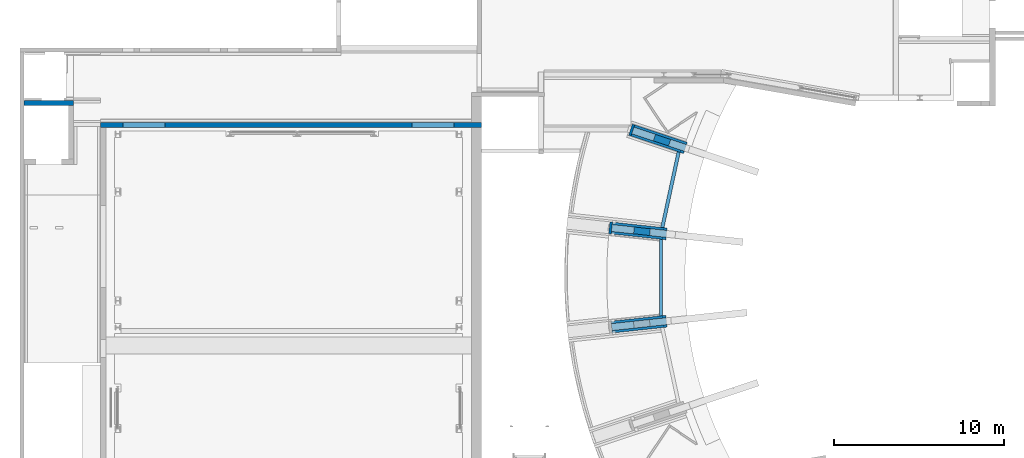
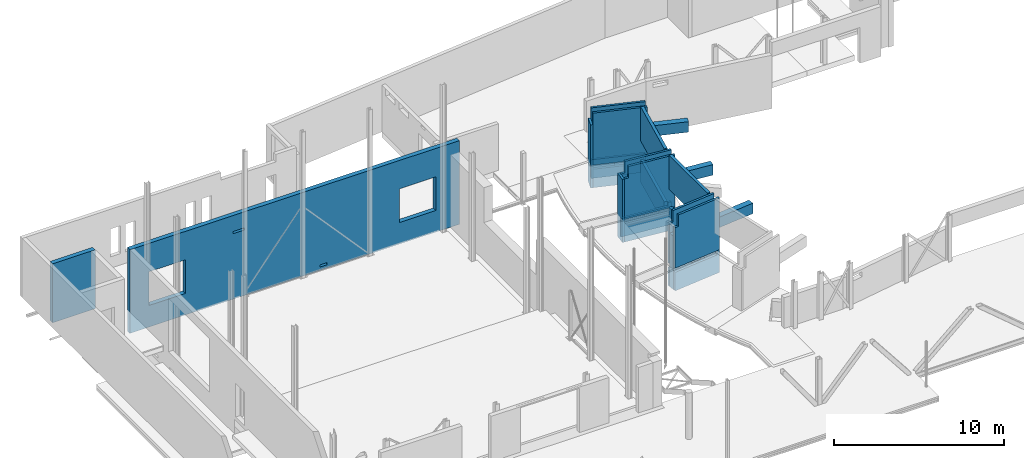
# One storey, part 27 of 37: 25 walls, 10 openings.
"""IFC2X3 building model written with IfcOpenShell, lengths in millimetres."""

from ifc_helpers import new_model, entity, si_unit, converted_unit, derived_unit, direction, frame, frame_2d, origin, origin_2d_with_axis, place, context, subcontext, project, spatial, polyline, rectangle, outline, extrude, clip, bounded_halfspace, material, layer, layer_set, layer_usage, type_object, element, save


model = new_model("IFC2X3")

# Units and contexts
model_context = context("Model", 3, precision=0.01, world=origin(), true_north=direction((6.12303176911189e-17, 1.0)))
body_context = subcontext(model_context, "Body", "Model", "MODEL_VIEW")
ifc_project = project(units=[si_unit("LENGTHUNIT", "METRE", prefix="MILLI"), si_unit("AREAUNIT", "SQUARE_METRE", prefix="MILLI"), si_unit("VOLUMEUNIT", "CUBIC_METRE"), converted_unit("PLANEANGLEUNIT", "DEGREE", entity("IfcRatioMeasure", 0.0174532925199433), si_unit("PLANEANGLEUNIT", "RADIAN"), dimensions=[0, 0, 0, 0, 0, 0, 0]), si_unit("MASSUNIT", "GRAM", prefix="KILO"), derived_unit("MASSDENSITYUNIT", [(si_unit("MASSUNIT", "GRAM", prefix="KILO"), 1), (si_unit("LENGTHUNIT", "METRE"), -3)]), derived_unit("MOMENTOFINERTIAUNIT", [(si_unit("LENGTHUNIT", "METRE"), 4)]), si_unit("TIMEUNIT", "SECOND"), si_unit("FREQUENCYUNIT", "HERTZ"), si_unit("THERMODYNAMICTEMPERATUREUNIT", "DEGREE_CELSIUS"), derived_unit("THERMALTRANSMITTANCEUNIT", [(si_unit("MASSUNIT", "GRAM", prefix="KILO"), 1), (si_unit("THERMODYNAMICTEMPERATUREUNIT", "KELVIN"), -1), (si_unit("TIMEUNIT", "SECOND"), -3)]), derived_unit("VOLUMETRICFLOWRATEUNIT", [(si_unit("LENGTHUNIT", "METRE"), 3), (si_unit("TIMEUNIT", "SECOND"), -1)]), si_unit("ELECTRICCURRENTUNIT", "AMPERE"), si_unit("ELECTRICVOLTAGEUNIT", "VOLT"), si_unit("POWERUNIT", "WATT"), si_unit("FORCEUNIT", "NEWTON", prefix="KILO"), si_unit("ILLUMINANCEUNIT", "LUX"), si_unit("LUMINOUSFLUXUNIT", "LUMEN"), si_unit("LUMINOUSINTENSITYUNIT", "CANDELA"), derived_unit("USERDEFINED", [(si_unit("MASSUNIT", "GRAM", prefix="KILO"), -1), (si_unit("LENGTHUNIT", "METRE"), -2), (si_unit("TIMEUNIT", "SECOND"), 3), (si_unit("LUMINOUSFLUXUNIT", "LUMEN"), 1)]), derived_unit("LINEARVELOCITYUNIT", [(si_unit("LENGTHUNIT", "METRE"), 1), (si_unit("TIMEUNIT", "SECOND"), -1)]), si_unit("PRESSUREUNIT", "PASCAL"), derived_unit("USERDEFINED", [(si_unit("LENGTHUNIT", "METRE"), -2), (si_unit("MASSUNIT", "GRAM", prefix="KILO"), 1), (si_unit("TIMEUNIT", "SECOND"), -2)]), derived_unit("LINEARFORCEUNIT", [(si_unit("MASSUNIT", "GRAM", prefix="KILO"), 1), (si_unit("LENGTHUNIT", "METRE"), 1), (si_unit("TIMEUNIT", "SECOND"), -2), (si_unit("LENGTHUNIT", "METRE"), -1)]), derived_unit("PLANARFORCEUNIT", [(si_unit("MASSUNIT", "GRAM", prefix="KILO"), 1), (si_unit("LENGTHUNIT", "METRE"), 1), (si_unit("TIMEUNIT", "SECOND"), -2), (si_unit("LENGTHUNIT", "METRE"), -2)])], contexts=[model_context])

# Site, building, storey
site_placement = place(None, origin())
site = spatial("IfcSite", under=ifc_project, at=site_placement, Name="Theater aan de Parade", CompositionType="ELEMENT")
building_placement = place(site_placement, origin())
building = spatial("IfcBuilding", under=site, at=building_placement, Name="Theater aan de Parade", CompositionType="ELEMENT")
storey_placement = place(building_placement, frame((0.0, 0.0, 5020.0)))
storey = spatial("IfcBuildingStorey", under=building, at=storey_placement, Name="01 eerste verdieping", CompositionType="ELEMENT", Elevation=5020.0)

# Wall, openings
ifc_material_1 = material(Name="00_PBT_MAT_beton t.p.g.")
ifc_layer_1 = layer(ifc_material_1, 400.0)
ifc_layer_set_1 = layer_set([ifc_layer_1], Name="Basic Wall:28_PBT_WA_beton t.p.g._d=400_bestaand")
ifc_layer_usage_1 = layer_usage(ifc_layer_set_1, "AXIS2", "POSITIVE", -200.0)
wall_type_1 = type_object("IfcWallType", Name="Basic Wall:28_PBT_WA_beton t.p.g._d=400_bestaand", PredefinedType="STANDARD", material=ifc_layer_set_1)
wall_1_placement = place(storey_placement, frame((50853.7394722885, 34754.9751017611, -1710.0), z_axis=(0.0, 0.0, 1.0), x_axis=(-0.994276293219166, 0.106839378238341, 0.0)))
wall_1 = element("IfcWallStandardCase", 1, at=wall_1_placement, inside=storey, type_object=wall_type_1, material=ifc_layer_usage_1, Name="Basic Wall:28_PBT_WA_beton t.p.g._d=400_bestaand", ObjectType="Basic Wall:28_PBT_WA_beton t.p.g._d=400_bestaand", context=body_context, shape_type="SweptSolid", body=[
    extrude(rectangle(XDim=5764.2585182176, YDim=399.999999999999, at=frame_2d((2882.12925910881, 5.11590769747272e-13), x_axis=(-1.0, 0.0))), origin(), (0.0, 0.0, 1.0), 3840.0),
])
opening_1_placement = place(wall_1_placement, origin())
element("IfcOpeningElement", 2, at=opening_1_placement, cuts=wall_1, Name="Basic Wall:28_PBT_WA_beton t.p.g._d=400_bestaand", ObjectType="Opening", context=body_context, shape_type="SweptSolid", body=[
    extrude(rectangle(XDim=2049.99999999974, YDim=949.999999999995, at=frame_2d((-2.27373675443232e-13, 7.95807864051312e-13), x_axis=(0.0, 1.0))), frame((3980.49800069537, 200.0, 2065.0), z_axis=(0.0, -1.0, 0.0), x_axis=(1.0, 0.0, 0.0)), (0.0, 0.0, 1.0), 400.0),
])
opening_2_placement = place(wall_1_placement, origin())
element("IfcOpeningElement", 3, at=opening_2_placement, cuts=wall_1, Name="Basic Wall:28_PBT_WA_beton t.p.g._d=400_bestaand", ObjectType="Opening", context=body_context, shape_type="SweptSolid", body=[
    extrude(rectangle(XDim=3089.99999999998, YDim=2524.65982693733, at=frame_2d((-2.27373675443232e-13, -1.13686837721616e-13), x_axis=(1.0, 0.0))), frame((1262.32991346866, 200.0, 1545.0), z_axis=(0.0, -1.0, 0.0), x_axis=(0.0, 0.0, -1.0)), (0.0, 0.0, 1.0), 400.0),
])

ifc_layer_usage_2 = layer_usage(ifc_layer_set_1, "AXIS2", "NEGATIVE", 200.0)
wall_2_placement = place(storey_placement, frame((51842.1950222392, 39280.3835829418, -1420.0), z_axis=(0.0, 0.0, 1.0), x_axis=(-0.948323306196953, 0.317305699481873, 0.0)))
wall_2 = element("IfcWallStandardCase", 4, at=wall_2_placement, inside=storey, type_object=wall_type_1, material=ifc_layer_usage_2, Name="Basic Wall:28_PBT_WA_beton t.p.g._d=400_bestaand", ObjectType="Basic Wall:28_PBT_WA_beton t.p.g._d=400_bestaand", context=body_context, shape_type="SweptSolid", body=[
    extrude(rectangle(XDim=5773.50284779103, YDim=400.000000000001, at=frame_2d((2886.75142389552, 4.54747350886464e-13), x_axis=(-1.0, 0.0))), origin(), (0.0, 0.0, 1.0), 3550.0),
])
opening_3_placement = place(wall_2_placement, origin())
element("IfcOpeningElement", 5, at=opening_3_placement, cuts=wall_2, Name="Basic Wall:28_PBT_WA_beton t.p.g._d=400_bestaand", ObjectType="Opening", context=body_context, shape_type="SweptSolid", body=[
    extrude(rectangle(XDim=2049.99999999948, YDim=949.999999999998, at=frame_2d((-5.48538992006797e-12, 0.0), x_axis=(0.0, 1.0))), frame((3970.2407419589, 200.0, 1775.0), z_axis=(0.0, -1.0, 0.0), x_axis=(1.0, 0.0, 0.0)), (0.0, 0.0, 1.0), 400.0),
])
opening_4_placement = place(wall_2_placement, origin())
element("IfcOpeningElement", 6, at=opening_4_placement, cuts=wall_2, Name="Basic Wall:28_PBT_WA_beton t.p.g._d=400_bestaand", ObjectType="Opening", context=body_context, shape_type="SweptSolid", body=[
    extrude(rectangle(XDim=2799.9999999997, YDim=2517.0764847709, at=frame_2d((5.6843418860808e-13, 5.57065504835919e-12), x_axis=(1.0, 0.0))), frame((1258.53824238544, 200.0, 1400.0), z_axis=(0.0, -1.0, 0.0), x_axis=(0.0, 0.0, -1.0)), (0.0, 0.0, 1.0), 400.0),
])

ifc_layer_usage_3 = layer_usage(ifc_layer_set_1, "AXIS2", "NEGATIVE", 200.0)
wall_3_placement = place(storey_placement, frame((50852.3419543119, 30158.0407946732, -1710.0), z_axis=(0.0, 0.0, 1.0), x_axis=(-0.994276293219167, -0.106839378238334, 0.0)))
wall_3 = element("IfcWallStandardCase", 7, at=wall_3_placement, inside=storey, type_object=wall_type_1, material=ifc_layer_usage_3, Name="Basic Wall:28_PBT_WA_beton t.p.g._d=400_bestaand", ObjectType="Basic Wall:28_PBT_WA_beton t.p.g._d=400_bestaand", context=body_context, shape_type="SweptSolid", body=[
    extrude(rectangle(XDim=5773.50318820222, YDim=399.999999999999, at=frame_2d((2886.75159410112, -6.25277607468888e-13), x_axis=(-1.0, 0.0))), origin(), (0.0, 0.0, 1.0), 3840.0),
])
opening_5_placement = place(wall_3_placement, origin())
element("IfcOpeningElement", 8, at=opening_5_placement, cuts=wall_3, Name="Basic Wall:28_PBT_WA_beton t.p.g._d=400_bestaand", ObjectType="Opening", context=body_context, shape_type="SweptSolid", body=[
    extrude(rectangle(XDim=2049.99999999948, YDim=950.000000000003, at=frame_2d((-3.41060513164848e-13, -4.57589521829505e-12), x_axis=(1.0, 0.0))), frame((3989.04624224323, 200.0, 2065.0), z_axis=(0.0, -1.0, 0.0), x_axis=(0.0, 0.0, -1.0)), (0.0, 0.0, 1.0), 400.0),
])
opening_6_placement = place(wall_3_placement, origin())
element("IfcOpeningElement", 9, at=opening_6_placement, cuts=wall_3, Name="Basic Wall:28_PBT_WA_beton t.p.g._d=400_bestaand", ObjectType="Opening", context=body_context, shape_type="SweptSolid", body=[
    extrude(rectangle(XDim=3089.99999999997, YDim=2530.97625901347, at=origin_2d_with_axis()), frame((1265.48812950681, 200.0, 1545.0), z_axis=(0.0, -1.0, 0.0), x_axis=(0.0, 0.0, -1.0)), (0.0, 0.0, 1.0), 400.0),
])

# Wall
ifc_material_2 = material(Name="00_PBT_MAT_beton t.p.g._C30/37")
ifc_layer_2 = layer(ifc_material_2, 300.0)
ifc_layer_set_2 = layer_set([ifc_layer_2], Name="Basic Wall:28_PBT_WA_beton t.p.g._d=300_C30/37")
ifc_layer_usage_4 = layer_usage(ifc_layer_set_2, "AXIS2", "POSITIVE", -150.0)
wall_type_2 = type_object("IfcWallType", Name="Basic Wall:28_PBT_WA_beton t.p.g._d=300_C30/37", PredefinedType="STANDARD", material=ifc_layer_set_2)
wall_4_placement = place(storey_placement, frame((13454.8570025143, 42720.0, 0.0), z_axis=(0.0, 0.0, 1.0), x_axis=(-1.0, 0.0, 0.0)))
element("IfcWallStandardCase", 10, at=wall_4_placement, inside=storey, type_object=wall_type_2, material=ifc_layer_usage_4, Name="Basic Wall:28_PBT_WA_beton t.p.g._d=300_C30/37", ObjectType="Basic Wall:28_PBT_WA_beton t.p.g._d=300_C30/37", context=body_context, shape_type="SweptSolid", body=[
    extrude(rectangle(XDim=2900.74444879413, YDim=300.000000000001, at=frame_2d((1450.37222439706, 7.38964445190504e-13), x_axis=(-1.0, 0.0))), origin(), (0.0, 0.0, 1.0), 4235.0),
])

# Wall, openings
ifc_layer_usage_5 = layer_usage(ifc_layer_set_2, "AXIS2", "POSITIVE", -150.0)
wall_5_placement = place(storey_placement, frame((15053.8570025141, 41423.308327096, -1550.0)))
wall_5 = element("IfcWallStandardCase", 11, at=wall_5_placement, inside=storey, type_object=wall_type_2, material=ifc_layer_usage_5, Name="Basic Wall:28_PBT_WA_beton t.p.g._d=300_C30/37", ObjectType="Basic Wall:28_PBT_WA_beton t.p.g._d=300_C30/37", context=body_context, shape_type="SweptSolid", body=[
    extrude(rectangle(XDim=22400.0011275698, YDim=300.000000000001, at=frame_2d((11200.0005637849, -2.54374299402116e-12), x_axis=(-1.0, 0.0))), origin(), (0.0, 0.0, 1.0), 6009.99999999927),
])
opening_7_placement = place(wall_5_placement, origin())
element("IfcOpeningElement", 12, at=opening_7_placement, cuts=wall_5, Name="Basic Wall:28_PBT_WA_beton t.p.g._d=300_C30/37", ObjectType="Opening", context=body_context, shape_type="SweptSolid", body=[
    extrude(rectangle(XDim=2419.99999999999, YDim=2470.0, at=frame_2d((1.13686837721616e-12, 5.6843418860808e-13), x_axis=(0.0, 1.0))), frame((2537.99983258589, -150.0, 2760.0), z_axis=(0.0, 1.0, 0.0), x_axis=(1.0, 0.0, 0.0)), (0.0, 0.0, 1.0), 300.000000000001),
])
opening_8_placement = place(wall_5_placement, origin())
element("IfcOpeningElement", 13, at=opening_8_placement, cuts=wall_5, Name="Basic Wall:28_PBT_WA_beton t.p.g._d=300_C30/37", ObjectType="Opening", context=body_context, shape_type="SweptSolid", body=[
    extrude(rectangle(XDim=2419.99999999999, YDim=2470.00000000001, at=frame_2d((2.27373675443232e-12, 5.6843418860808e-13), x_axis=(0.0, 1.0))), frame((19562.0011275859, -150.0, 2760.0), z_axis=(0.0, 1.0, 0.0), x_axis=(1.0, 0.0, 0.0)), (0.0, 0.0, 1.0), 300.000000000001),
])
opening_9_placement = place(wall_5_placement, origin())
element("IfcOpeningElement", 14, at=opening_9_placement, cuts=wall_5, Name="Basic Wall:28_PBT_WA_beton t.p.g._d=300_C30/37", ObjectType="Opening", context=body_context, shape_type="SweptSolid", body=[
    extrude(rectangle(XDim=149.999999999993, YDim=500.000000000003, at=frame_2d((-2.1600499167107e-12, 5.40012479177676e-13), x_axis=(0.0, 1.0))), frame((13167.5535566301, -150.0, 320.0), z_axis=(0.0, 1.0, 0.0), x_axis=(1.0, 0.0, 0.0)), (0.0, 0.0, 1.0), 300.000000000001),
])
opening_10_placement = place(wall_5_placement, origin())
element("IfcOpeningElement", 15, at=opening_10_placement, cuts=wall_5, Name="Basic Wall:28_PBT_WA_beton t.p.g._d=300_C30/37", ObjectType="Opening", context=body_context, shape_type="SweptSolid", body=[
    extrude(rectangle(XDim=149.999999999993, YDim=800.000000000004, at=frame_2d((2.18847162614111e-12, -5.40012479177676e-13), x_axis=(0.0, 1.0))), frame((7399.7215757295, -150.0, 4785.02895142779), z_axis=(0.0, 1.0, 0.0), x_axis=(1.0, 0.0, 0.0)), (0.0, 0.0, 1.0), 300.000000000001),
])

# Walls
ifc_layer_3 = layer(ifc_material_2, 200.0)
ifc_layer_set_3 = layer_set([ifc_layer_3], Name="Basic Wall:28_PBT_WA_beton t.p.g._d=200_C30/37")
ifc_layer_usage_6 = layer_usage(ifc_layer_set_3, "AXIS2", "POSITIVE", -100.0)
wall_type_3 = type_object("IfcWallType", Name="Basic Wall:28_PBT_WA_beton t.p.g._d=200_C30/37", PredefinedType="STANDARD", material=ifc_layer_set_3)
wall_6_placement = place(storey_placement, frame((49059.0235996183, 39854.0756580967, -1700.0), z_axis=(0.0, 0.0, 1.0), x_axis=(-0.211758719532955, -0.977321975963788, 0.0)))
element("IfcWallStandardCase", 16, at=wall_6_placement, inside=storey, type_object=wall_type_3, material=ifc_layer_usage_6, Name="Basic Wall:28_PBT_WA_beton t.p.g._d=200_C30/37", ObjectType="Basic Wall:28_PBT_WA_beton t.p.g._d=200_C30/37", context=body_context, shape_type="SweptSolid", body=[
    extrude(outline(polyline([(4564.56103067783, -100.0), (4543.21442973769, 100.0), (21.9905562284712, 100.0), (0.0, -100.0), (4564.56103067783, -100.0)])), origin(), (0.0, 0.0, 1.0), 1619.99999999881),
])
ifc_layer_usage_7 = layer_usage(ifc_layer_set_3, "AXIS2", "POSITIVE", -100.0)
wall_7_placement = place(storey_placement, frame((48018.8265992, 34718.3296203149, -1710.0), z_axis=(0.0, 0.0, 1.0), x_axis=(0.0, -1.0, 0.0)))
element("IfcWallStandardCase", 17, at=wall_7_placement, inside=storey, type_object=wall_type_3, material=ifc_layer_usage_7, Name="Basic Wall:28_PBT_WA_beton t.p.g._d=200_C30/37", ObjectType="Basic Wall:28_PBT_WA_beton t.p.g._d=200_C30/37", context=body_context, shape_type="SweptSolid", body=[
    extrude(outline(polyline([(4523.49317471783, -100.0), (4502.00229155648, 100.0), (21.4908831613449, 100.0), (0.0, -100.0), (4523.49317471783, -100.0)])), origin(), (0.0, 0.0, 1.0), 1710.00000000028),
])
ifc_layer_usage_8 = layer_usage(ifc_layer_set_3, "AXIS2", "POSITIVE", -100.0)
wall_8_placement = place(storey_placement, frame((48018.8265992, 34718.3296203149, 1270.0), z_axis=(0.0, 0.0, 1.0), x_axis=(0.0, -1.0, 0.0)))
element("IfcWallStandardCase", 18, at=wall_8_placement, inside=storey, type_object=wall_type_3, material=ifc_layer_usage_8, Name="Basic Wall:28_PBT_WA_beton t.p.g._d=200_C30/37", ObjectType="Basic Wall:28_PBT_WA_beton t.p.g._d=200_C30/37", context=body_context, shape_type="SweptSolid", body=[
    extrude(outline(polyline([(4523.49317471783, -100.0), (4502.00229155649, 100.0), (21.4908831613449, 100.0), (0.0, -100.0), (4523.49317471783, -100.0)])), origin(), (0.0, 0.0, 1.0), 2459.99999999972),
])
ifc_layer_usage_9 = layer_usage(ifc_layer_set_3, "AXIS2", "POSITIVE", -100.0)
wall_9_placement = place(storey_placement, frame((49059.0235996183, 39854.0756580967, 1270.0), z_axis=(0.0, 0.0, 1.0), x_axis=(-0.211758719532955, -0.977321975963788, 0.0)))
element("IfcWallStandardCase", 19, at=wall_9_placement, inside=storey, type_object=wall_type_3, material=ifc_layer_usage_9, Name="Basic Wall:28_PBT_WA_beton t.p.g._d=200_C30/37", ObjectType="Basic Wall:28_PBT_WA_beton t.p.g._d=200_C30/37", context=body_context, shape_type="SweptSolid", body=[
    extrude(outline(polyline([(4564.56103067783, -100.0), (4543.21442973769, 100.0), (21.9905562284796, 100.0), (0.0, -100.0), (4564.56103067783, -100.0)])), origin(), (0.0, 0.0, 1.0), 2459.99999999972),
])
ifc_layer_4 = layer(ifc_material_2, 400.0)
ifc_layer_set_4 = layer_set([ifc_layer_4], Name="Basic Wall:28_PBT_WA_beton t.p.g._d=400_C30/37")
ifc_layer_usage_10 = layer_usage(ifc_layer_set_4, "AXIS2", "NEGATIVE", 200.0)
wall_type_4 = type_object("IfcWallType", Name="Basic Wall:28_PBT_WA_beton t.p.g._d=400_C30/37", PredefinedType="STANDARD", material=ifc_layer_set_4)
wall_10_placement = place(storey_placement, frame((48527.5767658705, 40389.4433914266, -670.0), z_axis=(0.0, 0.0, 1.0), x_axis=(-0.948323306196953, 0.317305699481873, 0.0)))
element("IfcWallStandardCase", 20, at=wall_10_placement, inside=storey, type_object=wall_type_4, material=ifc_layer_usage_10, Name="Basic Wall:28_PBT_WA_beton t.p.g._d=400_C30/37", ObjectType="Basic Wall:28_PBT_WA_beton t.p.g._d=400_C30/37", context=body_context, shape_type="SweptSolid", body=[
    extrude(rectangle(XDim=949.999999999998, YDim=400.000000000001, at=frame_2d((474.999999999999, -1.98951966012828e-13), x_axis=(-1.0, 0.0))), origin(), (0.0, 0.0, 1.0), 2049.99999999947),
])
ifc_layer_usage_11 = layer_usage(ifc_layer_set_4, "AXIS2", "POSITIVE", -200.0)
wall_11_placement = place(storey_placement, frame((47368.3059142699, 35129.5003285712, -670.0), z_axis=(0.0, 0.0, 1.0), x_axis=(-0.994276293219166, 0.106839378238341, 0.0)))
element("IfcWallStandardCase", 21, at=wall_11_placement, inside=storey, type_object=wall_type_4, material=ifc_layer_usage_11, Name="Basic Wall:28_PBT_WA_beton t.p.g._d=400_C30/37", ObjectType="Basic Wall:28_PBT_WA_beton t.p.g._d=400_C30/37", context=body_context, shape_type="SweptSolid", body=[
    extrude(rectangle(XDim=949.999999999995, YDim=399.999999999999, at=frame_2d((474.999999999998, -2.1316282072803e-13), x_axis=(-1.0, 0.0))), origin(), (0.0, 0.0, 1.0), 2049.99999999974),
])
ifc_layer_5 = layer(ifc_material_2, 150.0)
ifc_layer_set_5 = layer_set([ifc_layer_5], Name="Basic Wall:28_PBT_WA_beton t.p.g._d=150_C30/37")
ifc_layer_usage_12 = layer_usage(ifc_layer_set_5, "AXIS2", "POSITIVE", -75.0)
wall_type_5 = type_object("IfcWallType", Name="Basic Wall:28_PBT_WA_beton t.p.g._d=150_C30/37", PredefinedType="STANDARD", material=ifc_layer_set_5)
wall_12_placement = place(storey_placement, frame((48374.9000674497, 35297.9204223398, -1710.0), z_axis=(0.0, 0.0, 1.0), x_axis=(-0.994276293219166, 0.106839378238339, 0.0)))
element("IfcWallStandardCase", 22, at=wall_12_placement, inside=storey, type_object=wall_type_5, material=ifc_layer_usage_12, Name="Basic Wall:28_PBT_WA_beton t.p.g._d=150_C30/37", ObjectType="Basic Wall:28_PBT_WA_beton t.p.g._d=150_C30/37", context=body_context, shape_type="Clipping", body=[
    clip(clip(extrude(rectangle(XDim=3241.5993228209, YDim=149.999999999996, at=frame_2d((1620.79966141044, -9.80548975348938e-13), x_axis=(-1.0, 0.0))), origin(), (0.0, 0.0, 1.0), 1630.0), bounded_halfspace(frame((205.31597669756, 75.0, 1330.0), z_axis=(0.0, 0.0, -1.0), x_axis=(-0.976796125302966, 0.214171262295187, 0.0)), True, frame((205.31597669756, 75.0, 1330.0), z_axis=(0.0, 0.0, -1.0), x_axis=(-0.976796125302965, 0.214171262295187, 0.0)), polyline([(0.0, 0.0), (-759.481286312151, 166.523045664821), (-1687.43760534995, 369.98574484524), (-2965.82980781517, 650.284636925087), (-2997.95549715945, 503.765218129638), (-16.48723152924, -149.948290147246), (0.0, 0.0)]))), bounded_halfspace(frame((189.306025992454, -75.0, 1330.0), z_axis=(-0.994352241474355, 0.106130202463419, 0.0), x_axis=(0.0, 0.0, 1.0)), True, frame((189.306025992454, -75.0, 1330.0), z_axis=(-0.994352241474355, 0.106130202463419, 0.0), x_axis=(0.0, 0.0, 1.0)), polyline([(0.0, 0.0), (300.0, 0.0), (300.0, 150.851975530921), (0.0, 150.85197553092), (0.0, 0.0)]))),
])
ifc_layer_usage_13 = layer_usage(ifc_layer_set_5, "AXIS2", "NEGATIVE", 75.0)
wall_13_placement = place(storey_placement, frame((48315.2894861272, 34751.1596816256, -1710.0), z_axis=(0.0, 0.0, 1.0), x_axis=(-0.994276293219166, 0.106839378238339, 0.0)))
element("IfcWallStandardCase", 23, at=wall_13_placement, inside=storey, type_object=wall_type_5, material=ifc_layer_usage_13, Name="Basic Wall:28_PBT_WA_beton t.p.g._d=150_C30/37", ObjectType="Basic Wall:28_PBT_WA_beton t.p.g._d=150_C30/37", context=body_context, shape_type="Clipping", body=[
    clip(clip(extrude(rectangle(XDim=3240.74551256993, YDim=149.999999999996, at=frame_2d((1620.37275628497, -1.22213350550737e-12), x_axis=(-1.0, 0.0))), origin(), (0.0, 0.0, 1.0), 1630.0), bounded_halfspace(frame((981.984995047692, -75.0, 1330.0), z_axis=(0.0, 0.0, -1.0), x_axis=(-0.976796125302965, 0.214171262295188, 0.0)), True, frame((981.984995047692, -75.0, 1330.0), z_axis=(0.0, 0.0, -1.0), x_axis=(-0.976796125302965, 0.214171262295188, 0.0)), polyline([(0.0, 0.0), (758.318145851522, -166.268016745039), (806.187993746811, -23.2006451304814), (-2174.22283215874, 630.281010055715), (-2206.34852150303, 483.761591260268), (-927.956319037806, 203.462699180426), (0.0, 0.0)]))), bounded_halfspace(frame((205.652937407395, -75.0, 1330.0), z_axis=(-0.994276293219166, -0.106839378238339, 0.0), x_axis=(0.0, 0.0, 1.0)), True, frame((205.652937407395, -75.0, 1330.0), z_axis=(-0.994276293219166, -0.106839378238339, 0.0), x_axis=(0.0, 0.0, 1.0)), polyline([(0.0, 0.0), (300.0, 0.0), (300.0, 150.863498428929), (0.0, 150.863498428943), (0.0, 0.0)]))),
])
ifc_layer_usage_14 = layer_usage(ifc_layer_set_5, "AXIS2", "POSITIVE", -75.0)
wall_14_placement = place(storey_placement, frame((49544.3369369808, 40339.2244450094, -1420.0), z_axis=(0.0, 0.0, 1.0), x_axis=(-0.948323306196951, 0.317305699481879, 0.0)))
element("IfcWallStandardCase", 24, at=wall_14_placement, inside=storey, type_object=wall_type_5, material=ifc_layer_usage_14, Name="Basic Wall:28_PBT_WA_beton t.p.g._d=150_C30/37", ObjectType="Basic Wall:28_PBT_WA_beton t.p.g._d=150_C30/37", context=body_context, shape_type="SweptSolid", body=[
    extrude(rectangle(XDim=3258.41423082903, YDim=149.999999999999, at=frame_2d((1629.20711541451, -3.89377419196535e-12), x_axis=(-1.0, 0.0))), origin(), (0.0, 0.0, 1.0), 1340.0),
])
ifc_layer_usage_15 = layer_usage(ifc_layer_set_5, "AXIS2", "NEGATIVE", 75.0)
wall_15_placement = place(storey_placement, frame((49369.0333217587, 39817.909445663, -1710.0), z_axis=(0.0, 0.0, 1.0), x_axis=(-0.948323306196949, 0.317305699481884, 0.0)))
element("IfcWallStandardCase", 25, at=wall_15_placement, inside=storey, type_object=wall_type_5, material=ifc_layer_usage_15, Name="Basic Wall:28_PBT_WA_beton t.p.g._d=150_C30/37", ObjectType="Basic Wall:28_PBT_WA_beton t.p.g._d=150_C30/37", context=body_context, shape_type="Clipping", body=[
    clip(clip(extrude(rectangle(XDim=3257.58594737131, YDim=149.999999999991, at=frame_2d((1628.79297368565, 1.15107923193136e-12), x_axis=(-1.0, 0.0))), origin(), (0.0, 0.0, 1.0), 1630.0), bounded_halfspace(frame((203.660806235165, 75.0, 1330.0), z_axis=(0.0, 0.0, -1.0), x_axis=(-1.0, 0.0, 0.0)), True, frame((203.660806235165, 75.0, 1330.0), z_axis=(0.0, 0.0, -1.0), x_axis=(-1.0, 0.0, 0.0)), polyline([(0.0, 0.0), (-196.532336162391, 0.0), (-201.205329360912, 0.0), (-3053.92514113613, 0.0), (-3053.92514113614, -150.0), (-775.66303530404, -150.0), (-16.4929171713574, -150.0), (0.0, 0.0)]))), bounded_halfspace(frame((220.153723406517, -75.0, 1330.0), z_axis=(-0.994009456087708, -0.109294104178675, 0.0), x_axis=(0.0, 0.0, 1.0)), True, frame((220.153723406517, -75.0, 1330.0), z_axis=(-0.994009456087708, -0.109294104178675, 0.0), x_axis=(0.0, 0.0, 1.0)), polyline([(0.0, 0.0), (300.0, 0.0), (300.0, 150.903997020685), (0.0, 150.903997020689), (0.0, 0.0)]))),
])
ifc_layer_usage_16 = layer_usage(ifc_layer_set_5, "AXIS2", "NEGATIVE", 75.0)
wall_16_placement = place(storey_placement, frame((48366.4048996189, 29614.3328002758, -1710.0), z_axis=(0.0, 0.0, 1.0), x_axis=(-0.994276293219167, -0.106839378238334, 0.0)))
element("IfcWallStandardCase", 26, at=wall_16_placement, inside=storey, type_object=wall_type_5, material=ifc_layer_usage_16, Name="Basic Wall:28_PBT_WA_beton t.p.g._d=150_C30/37", ObjectType="Basic Wall:28_PBT_WA_beton t.p.g._d=150_C30/37", context=body_context, shape_type="Clipping", body=[
    clip(clip(extrude(rectangle(XDim=3243.70548422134, YDim=149.999999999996, at=frame_2d((1621.85274211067, 6.96331881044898e-13), x_axis=(-1.0, 0.0))), origin(), (0.0, 0.0, 1.0), 1630.0), bounded_halfspace(frame((185.699604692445, 75.0, 1330.0), z_axis=(0.0, 0.0, -1.0), x_axis=(-0.908994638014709, 0.416807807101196, 0.0)), True, frame((185.699604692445, 75.0, 1330.0), z_axis=(0.0, 0.0, -1.0), x_axis=(-0.908994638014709, 0.416807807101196, 0.0)), polyline([(0.0, 0.0), (-180.231387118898, 82.6427858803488), (-2779.71094750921, 1274.600724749), (-2842.2321185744, 1138.25152904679), (-1651.94277598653, 592.459650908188), (-788.397869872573, 196.492234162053), (-77.0741304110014, -129.676123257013), (0.0, 0.0)]))), bounded_halfspace(frame((201.709555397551, -75.0, 1330.0), z_axis=(-0.994352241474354, -0.106130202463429, 0.0), x_axis=(0.0, 0.0, 1.0)), True, frame((201.709555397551, -75.0, 1330.0), z_axis=(-0.994352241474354, -0.106130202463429, 0.0), x_axis=(0.0, 0.0, 1.0)), polyline([(0.0, 0.0), (300.0, 0.0), (300.0, 150.851975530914), (0.0, 150.851975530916), (0.0, 0.0)]))),
])
ifc_layer_usage_17 = layer_usage(ifc_layer_set_5, "AXIS2", "POSITIVE", -75.0)
wall_17_placement = place(storey_placement, frame((48308.4290590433, 30161.2692011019, -1710.0), z_axis=(0.0, 0.0, 1.0), x_axis=(-0.994276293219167, -0.106839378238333, 0.0)))
element("IfcWallStandardCase", 27, at=wall_17_placement, inside=storey, type_object=wall_type_5, material=ifc_layer_usage_17, Name="Basic Wall:28_PBT_WA_beton t.p.g._d=150_C30/37", ObjectType="Basic Wall:28_PBT_WA_beton t.p.g._d=150_C30/37", context=body_context, shape_type="Clipping", body=[
    clip(clip(extrude(rectangle(XDim=3244.49582535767, YDim=149.999999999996, at=frame_2d((1622.24791267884, -8.5265128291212e-13), x_axis=(-1.0, 0.0))), origin(), (0.0, 0.0, 1.0), 1630.0), bounded_halfspace(frame((198.753017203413, 75.0, 1330.0), z_axis=(0.0, 0.0, -1.0), x_axis=(-0.908994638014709, 0.416807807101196, 0.0)), True, frame((198.753017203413, 75.0, 1330.0), z_axis=(0.0, 0.0, -1.0), x_axis=(-0.908994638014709, 0.416807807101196, 0.0)), polyline([(0.0, 0.0), (-714.729632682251, 327.730085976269), (-1578.27453879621, 723.697502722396), (-2768.56388138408, 1269.48938086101), (-2831.08505244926, 1133.1401851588), (-47.8698478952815, -143.067371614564), (0.0, 0.0)]))), bounded_halfspace(frame((182.634854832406, -75.0, 1330.0), z_axis=(-0.994276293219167, 0.106839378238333, 0.0), x_axis=(0.0, 0.0, 1.0)), True, frame((182.634854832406, -75.0, 1330.0), z_axis=(-0.994276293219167, 0.106839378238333, 0.0), x_axis=(0.0, 0.0, 1.0)), polyline([(0.0, 0.0), (300.0, 0.0), (300.0, 150.863498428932), (0.0, 150.863498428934), (0.0, 0.0)]))),
])
ifc_layer_usage_18 = layer_usage(ifc_layer_set_5, "AXIS2", "POSITIVE", -75.0)
wall_18_placement = place(storey_placement, frame((48374.9000674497, 35297.9204223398, -80.0), z_axis=(0.0, 0.0, 1.0), x_axis=(-0.994276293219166, 0.106839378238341, 0.0)))
element("IfcWallStandardCase", 28, at=wall_18_placement, inside=storey, type_object=wall_type_5, material=ifc_layer_usage_18, Name="Basic Wall:28_PBT_WA_beton t.p.g._d=150_C30/37", ObjectType="Basic Wall:28_PBT_WA_beton t.p.g._d=150_C30/37", context=body_context, shape_type="Clipping", body=[
    clip(clip(extrude(rectangle(XDim=3241.59932282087, YDim=149.999999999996, at=frame_2d((1620.79966141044, 5.47117906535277e-13), x_axis=(-1.0, 0.0))), origin(), (0.0, 0.0, 1.0), 3730.0), bounded_halfspace(frame((2982.13083182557, 75.0, 2910.0), z_axis=(0.0, 0.0, -1.0), x_axis=(0.0, 1.0, 0.0)), True, frame((2982.13083182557, 75.0, 2910.0), z_axis=(0.0, 0.0, -1.0), x_axis=(0.0, 1.0, 0.0)), polyline([(0.0, 0.0), (0.0, 259.468490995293), (-150.0, 259.468490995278), (-150.0, 0.0), (0.0, 0.0)]))), bounded_halfspace(frame((2982.13083182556, -75.0, 2910.0), z_axis=(-1.0, 0.0, 0.0), x_axis=(0.0, 1.0, 0.0)), True, frame((2982.13083182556, -75.0, 2910.0), z_axis=(-1.0, 0.0, 0.0), x_axis=(0.0, 1.0, 0.0)), polyline([(0.0, 0.0), (0.0, -820.0), (150.0, -820.0), (150.0, -500.0), (150.0, 0.0), (0.0, 0.0)]))),
])
ifc_layer_usage_19 = layer_usage(ifc_layer_set_5, "AXIS2", "NEGATIVE", 75.0)
wall_19_placement = place(storey_placement, frame((48315.2894861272, 34751.1596816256, -80.0), z_axis=(0.0, 0.0, 1.0), x_axis=(-0.994276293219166, 0.106839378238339, 0.0)))
element("IfcWallStandardCase", 29, at=wall_19_placement, inside=storey, type_object=wall_type_5, material=ifc_layer_usage_19, Name="Basic Wall:28_PBT_WA_beton t.p.g._d=150_C30/37", ObjectType="Basic Wall:28_PBT_WA_beton t.p.g._d=150_C30/37", context=body_context, shape_type="Clipping", body=[
    clip(clip(extrude(rectangle(XDim=3240.74551256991, YDim=149.999999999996, at=frame_2d((1620.37275628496, 1.01607611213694e-12), x_axis=(-1.0, 0.0))), origin(), (0.0, 0.0, 1.0), 3730.0), bounded_halfspace(frame((2981.27702157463, 75.0, 2910.0), z_axis=(0.0, 0.0, -1.0), x_axis=(0.0, 1.0, 0.0)), True, frame((2981.27702157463, 75.0, 2910.0), z_axis=(0.0, 0.0, -1.0), x_axis=(0.0, 1.0, 0.0)), polyline([(0.0, 0.0), (0.0, 259.468490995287), (-150.0, 259.46849099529), (-150.0, 0.0), (0.0, 0.0)]))), bounded_halfspace(frame((2981.27702157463, -75.0, 2910.0), z_axis=(-1.0, 0.0, 0.0), x_axis=(0.0, 1.0, 0.0)), True, frame((2981.27702157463, -75.0, 2910.0), z_axis=(-1.0, 0.0, 0.0), x_axis=(0.0, 1.0, 0.0)), polyline([(0.0, 0.0), (0.0, -500.0), (0.0, -820.0), (150.0, -820.0), (150.0, 0.0), (0.0, 0.0)]))),
])
ifc_layer_usage_20 = layer_usage(ifc_layer_set_5, "AXIS2", "POSITIVE", -75.0)
wall_20_placement = place(storey_placement, frame((49544.3369369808, 40339.2244450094, -80.0), z_axis=(0.0, 0.0, 1.0), x_axis=(-0.948323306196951, 0.317305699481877, 0.0)))
element("IfcWallStandardCase", 30, at=wall_20_placement, inside=storey, type_object=wall_type_5, material=ifc_layer_usage_20, Name="Basic Wall:28_PBT_WA_beton t.p.g._d=150_C30/37", ObjectType="Basic Wall:28_PBT_WA_beton t.p.g._d=150_C30/37", context=body_context, shape_type="SweptSolid", body=[
    extrude(rectangle(XDim=3258.41423082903, YDim=149.999999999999, at=frame_2d((1629.20711541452, -1.46371803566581e-12), x_axis=(-1.0, 0.0))), origin(), (0.0, 0.0, 1.0), 3730.0),
])
ifc_layer_usage_21 = layer_usage(ifc_layer_set_5, "AXIS2", "NEGATIVE", 75.0)
wall_21_placement = place(storey_placement, frame((49369.0333217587, 39817.909445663, -80.0), z_axis=(0.0, 0.0, 1.0), x_axis=(-0.948323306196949, 0.317305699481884, 0.0)))
element("IfcWallStandardCase", 31, at=wall_21_placement, inside=storey, type_object=wall_type_5, material=ifc_layer_usage_21, Name="Basic Wall:28_PBT_WA_beton t.p.g._d=150_C30/37", ObjectType="Basic Wall:28_PBT_WA_beton t.p.g._d=150_C30/37", context=body_context, shape_type="SweptSolid", body=[
    extrude(rectangle(XDim=3257.58594737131, YDim=149.999999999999, at=frame_2d((1628.79297368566, 3.11928260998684e-12), x_axis=(-1.0, 0.0))), origin(), (0.0, 0.0, 1.0), 3730.0),
])
ifc_layer_usage_22 = layer_usage(ifc_layer_set_5, "AXIS2", "NEGATIVE", 75.0)
wall_22_placement = place(storey_placement, frame((48366.4048996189, 29614.3328002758, -80.0), z_axis=(0.0, 0.0, 1.0), x_axis=(-0.994276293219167, -0.106839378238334, 0.0)))
element("IfcWallStandardCase", 32, at=wall_22_placement, inside=storey, type_object=wall_type_5, material=ifc_layer_usage_22, Name="Basic Wall:28_PBT_WA_beton t.p.g._d=150_C30/37", ObjectType="Basic Wall:28_PBT_WA_beton t.p.g._d=150_C30/37", context=body_context, shape_type="Clipping", body=[
    clip(clip(extrude(rectangle(XDim=3243.70548422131, YDim=149.999999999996, at=frame_2d((1621.85274211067, 4.05009359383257e-13), x_axis=(-1.0, 0.0))), origin(), (0.0, 0.0, 1.0), 3730.0), bounded_halfspace(frame((2983.54056478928, 75.0, 2910.0), z_axis=(0.0, 0.0, -1.0), x_axis=(0.0, 1.0, 0.0)), True, frame((2983.54056478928, 75.0, 2910.0), z_axis=(0.0, 0.0, -1.0), x_axis=(0.0, 1.0, 0.0)), polyline([(0.0, 0.0), (0.0, 260.164919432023), (-150.0, 260.164919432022), (-150.0, 0.0), (0.0, 0.0)]))), bounded_halfspace(frame((2983.54056478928, -75.0, 2910.0), z_axis=(-1.0, 0.0, 0.0), x_axis=(0.0, 1.0, 0.0)), True, frame((2983.54056478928, -75.0, 2910.0), z_axis=(-1.0, 0.0, 0.0), x_axis=(0.0, 1.0, 0.0)), polyline([(0.0, 0.0), (0.0, -500.0), (0.0, -820.0), (150.0, -820.0), (150.0, 0.0), (0.0, 0.0)]))),
])
ifc_layer_usage_23 = layer_usage(ifc_layer_set_5, "AXIS2", "POSITIVE", -75.0)
wall_23_placement = place(storey_placement, frame((48308.4290590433, 30161.2692011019, -80.0), z_axis=(0.0, 0.0, 1.0), x_axis=(-0.994276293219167, -0.106839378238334, 0.0)))
element("IfcWallStandardCase", 33, at=wall_23_placement, inside=storey, type_object=wall_type_5, material=ifc_layer_usage_23, Name="Basic Wall:28_PBT_WA_beton t.p.g._d=150_C30/37", ObjectType="Basic Wall:28_PBT_WA_beton t.p.g._d=150_C30/37", context=body_context, shape_type="Clipping", body=[
    clip(clip(extrude(rectangle(XDim=3244.49582535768, YDim=149.999999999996, at=frame_2d((1622.24791267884, -2.01083594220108e-12), x_axis=(-1.0, 0.0))), origin(), (0.0, 0.0, 1.0), 3730.0), bounded_halfspace(frame((2984.33090592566, 75.0, 2910.0), z_axis=(0.0, 0.0, -1.0), x_axis=(0.0, 1.0, 0.0)), True, frame((2984.33090592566, 75.0, 2910.0), z_axis=(0.0, 0.0, -1.0), x_axis=(0.0, 1.0, 0.0)), polyline([(0.0, 0.0), (0.0, 260.164919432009), (-150.0, 260.164919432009), (-150.0, 0.0), (0.0, 0.0)]))), bounded_halfspace(frame((2984.33090592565, -75.0, 2910.0), z_axis=(-1.0, 0.0, 0.0), x_axis=(0.0, 1.0, 0.0)), True, frame((2984.33090592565, -75.0, 2910.0), z_axis=(-1.0, 0.0, 0.0), x_axis=(0.0, 1.0, 0.0)), polyline([(0.0, 0.0), (0.0, -820.0), (150.0, -820.0), (150.0, -500.0), (150.0, 0.0), (0.0, 0.0)]))),
])
ifc_layer_usage_24 = layer_usage(ifc_layer_set_5, "AXIS2", "NEGATIVE", 75.0)
wall_24_placement = place(storey_placement, frame((45085.2969400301, 35726.8345538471, -1710.0), z_axis=(0.0, 0.0, 1.0), x_axis=(-0.106839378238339, -0.994276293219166, 0.0)))
element("IfcWallStandardCase", 34, at=wall_24_placement, inside=storey, type_object=wall_type_5, material=ifc_layer_usage_24, Name="Basic Wall:28_PBT_WA_beton t.p.g._d=150_C30/37", ObjectType="Basic Wall:28_PBT_WA_beton t.p.g._d=150_C30/37", context=body_context, shape_type="SweptSolid", body=[
    extrude(rectangle(XDim=699.999999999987, YDim=149.999999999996, at=frame_2d((349.999999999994, 1.87583282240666e-12), x_axis=(-1.0, 0.0))), origin(), (0.0, 0.0, 1.0), 4540.0),
])
ifc_layer_usage_25 = layer_usage(ifc_layer_set_5, "AXIS2", "NEGATIVE", 75.0)
wall_25_placement = place(storey_placement, frame((46406.9804601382, 41468.0600271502, -1710.0), z_axis=(0.0, 0.0, 1.0), x_axis=(-0.317305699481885, -0.948323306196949, 0.0)))
element("IfcWallStandardCase", 35, at=wall_25_placement, inside=storey, type_object=wall_type_5, material=ifc_layer_usage_25, Name="Basic Wall:28_PBT_WA_beton t.p.g._d=150_C30/37", ObjectType="Basic Wall:28_PBT_WA_beton t.p.g._d=150_C30/37", context=body_context, shape_type="SweptSolid", body=[
    extrude(rectangle(XDim=700.000000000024, YDim=150.000000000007, at=frame_2d((350.000000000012, -8.59756710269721e-13), x_axis=(-1.0, 0.0))), origin(), (0.0, 0.0, 1.0), 4540.0),
])

save(model, "model.ifc")
